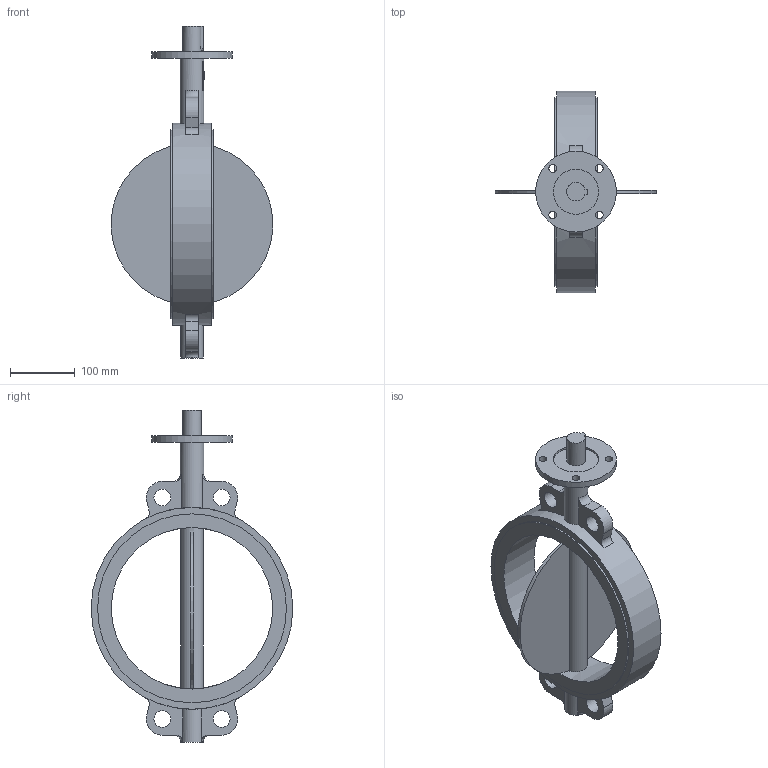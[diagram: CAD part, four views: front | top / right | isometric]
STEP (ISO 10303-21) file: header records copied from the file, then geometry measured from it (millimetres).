
FILE_DESCRIPTION(('STEP AP203'), '1');
FILE_NAME('青蜮铕 017W.Y_DN250_PN16', '', ('UNSPECIFIED'), ('UNSPECIFIED'), 'ASCON STEP Converter 1.6', 'ASCON Math Kernel', '');
FILE_SCHEMA(('CONFIG_CONTROL_DESIGN'));
Length unit declared in the file: millimetre
Bounding box: 249.53 x 312.4 x 514 mm (x, y, z)
Volume: 2644599.5 mm3; surface area: 350224.8 mm2
Topology: 1 solids, 1 shells, 89 faces, 220 edges, 146 vertices
Faces by surface type: plane 48, cylinder 37, torus 4
Full cylindrical faces by diameter (mm): 12 x4, 26 x4, 28.5 x1, 35 x2, 37 x1, 70 x1, 125 x1, 250 x1, 292.4 x2, 312.4 x1
Entity records: 4527 total; most frequent: CARTESIAN_POINT 1635, DIRECTION 452, ORIENTED_EDGE 404, EDGE_CURVE 202, AXIS2_PLACEMENT_3D 180, VERTEX_POINT 146, EDGE_LOOP 140, FACE_BOUND 107
